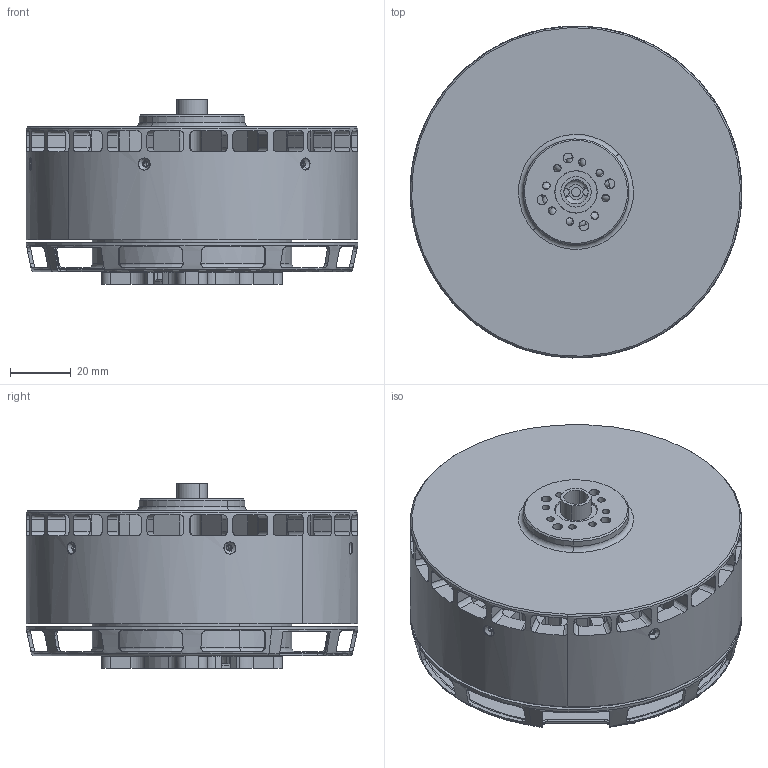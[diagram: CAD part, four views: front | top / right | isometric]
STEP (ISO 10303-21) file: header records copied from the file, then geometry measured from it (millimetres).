
FILE_DESCRIPTION (( 'STEP AP214' ), '1' );
FILE_NAME ('VL1035.STEP', '2024-09-11T01:20:50', ( '' ), ( '' ), 'SwSTEP 2.0', 'SolidWorks 2021', '' );
FILE_SCHEMA (( 'AUTOMOTIVE_DESIGN' ));
Length unit declared in the file: millimetre
Products named in the file (1): VL1035
Bounding box: 109.6 x 109.6 x 61 mm (x, y, z)
Volume: 164584.8 mm3; surface area: 139528.6 mm2
Topology: 1 solids, 6 shells, 2379 faces, 7122 edges, 4568 vertices
Faces by surface type: cylinder 1133, plane 800, torus 140, bspline 120, sphere 112, cone 74
Entity records: 105146 total; most frequent: CARTESIAN_POINT 30375, ORIENTED_EDGE 13908, DIRECTION 12697, EDGE_CURVE 6954, AXIS2_PLACEMENT_3D 4907, VERTEX_POINT 4512, VECTOR 2883, LINE 2883
